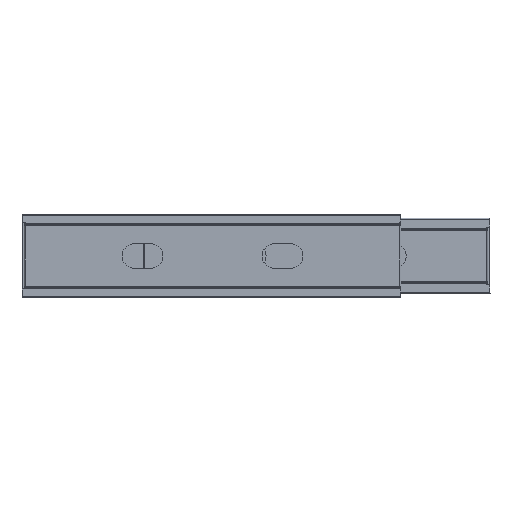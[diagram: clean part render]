
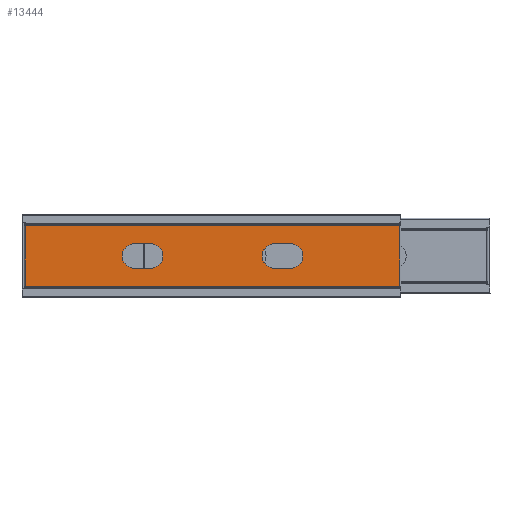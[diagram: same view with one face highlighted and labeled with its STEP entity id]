
A CAD part, top view. The second image highlights one B-rep face of the part: STEP entity #13444.
In plain terms, the highlighted planar face has unit normal (0, 0, 1).
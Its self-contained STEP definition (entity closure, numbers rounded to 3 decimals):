
#12446=CARTESIAN_POINT('Vertex',(364.85,436.8,117.195)) ;
#12611=CARTESIAN_POINT('Vertex',(513.45,436.8,117.195)) ;
#12881=CARTESIAN_POINT('Line Origine',(364.85,-23.,117.195)) ;
#12885=CARTESIAN_POINT('Vertex',(364.85,-482.8,117.195)) ;
#12917=CARTESIAN_POINT('Line Origine',(513.45,-23.,117.195)) ;
#12921=CARTESIAN_POINT('Vertex',(513.45,-482.8,117.195)) ;
#12953=CARTESIAN_POINT('Line Origine',(439.15,436.8,117.195)) ;
#13071=CARTESIAN_POINT('Vertex',(469.15,-175.,117.195)) ;
#13074=CARTESIAN_POINT('Axis2P3D Location',(439.15,-175.,117.195)) ;
#13078=CARTESIAN_POINT('Vertex',(409.15,-175.,117.195)) ;
#13111=CARTESIAN_POINT('Vertex',(469.15,-215.,117.195)) ;
#13114=CARTESIAN_POINT('Line Origine',(469.15,-195.,117.195)) ;
#13142=CARTESIAN_POINT('Vertex',(409.15,-215.,117.195)) ;
#13145=CARTESIAN_POINT('Axis2P3D Location',(439.15,-215.,117.195)) ;
#13172=CARTESIAN_POINT('Line Origine',(409.15,-195.,117.195)) ;
#13202=CARTESIAN_POINT('Vertex',(409.15,129.,117.195)) ;
#13205=CARTESIAN_POINT('Axis2P3D Location',(439.15,129.,117.195)) ;
#13209=CARTESIAN_POINT('Vertex',(469.15,129.,117.195)) ;
#13235=CARTESIAN_POINT('Vertex',(409.15,169.,117.195)) ;
#13238=CARTESIAN_POINT('Line Origine',(409.15,149.,117.195)) ;
#13266=CARTESIAN_POINT('Vertex',(469.15,169.,117.195)) ;
#13269=CARTESIAN_POINT('Axis2P3D Location',(439.15,169.,117.195)) ;
#13296=CARTESIAN_POINT('Line Origine',(469.15,149.,117.195)) ;
#13416=CARTESIAN_POINT('Axis2P3D Location',(0.,0.,117.195)) ;
#13421=CARTESIAN_POINT('Line Origine',(439.15,-482.8,117.195)) ;
#12882=DIRECTION('Vector Direction',(0.,1.,0.)) ;
#12918=DIRECTION('Vector Direction',(0.,-1.,0.)) ;
#12954=DIRECTION('Vector Direction',(1.,0.,0.)) ;
#13075=DIRECTION('Axis2P3D Direction',(0.,0.,1.)) ;
#13115=DIRECTION('Vector Direction',(0.,1.,0.)) ;
#13146=DIRECTION('Axis2P3D Direction',(0.,0.,1.)) ;
#13173=DIRECTION('Vector Direction',(0.,1.,0.)) ;
#13206=DIRECTION('Axis2P3D Direction',(0.,0.,1.)) ;
#13239=DIRECTION('Vector Direction',(0.,1.,0.)) ;
#13270=DIRECTION('Axis2P3D Direction',(0.,0.,1.)) ;
#13297=DIRECTION('Vector Direction',(0.,1.,0.)) ;
#13417=DIRECTION('Axis2P3D Direction',(0.,0.,1.)) ;
#13418=DIRECTION('Axis2P3D XDirection',(1.,0.,0.)) ;
#13422=DIRECTION('Vector Direction',(1.,0.,0.)) ;
#13076=AXIS2_PLACEMENT_3D('Circle Axis2P3D',#13074,#13075,$) ;
#13147=AXIS2_PLACEMENT_3D('Circle Axis2P3D',#13145,#13146,$) ;
#13207=AXIS2_PLACEMENT_3D('Circle Axis2P3D',#13205,#13206,$) ;
#13271=AXIS2_PLACEMENT_3D('Circle Axis2P3D',#13269,#13270,$) ;
#13419=AXIS2_PLACEMENT_3D('Plane Axis2P3D',#13416,#13417,#13418) ;
#13427=ORIENTED_EDGE('',*,*,#12887,.F.) ;
#13428=ORIENTED_EDGE('',*,*,#13425,.F.) ;
#13429=ORIENTED_EDGE('',*,*,#12923,.F.) ;
#13430=ORIENTED_EDGE('',*,*,#12957,.F.) ;
#13433=ORIENTED_EDGE('',*,*,#13080,.F.) ;
#13434=ORIENTED_EDGE('',*,*,#13118,.F.) ;
#13435=ORIENTED_EDGE('',*,*,#13149,.F.) ;
#13436=ORIENTED_EDGE('',*,*,#13176,.T.) ;
#13439=ORIENTED_EDGE('',*,*,#13211,.F.) ;
#13440=ORIENTED_EDGE('',*,*,#13242,.T.) ;
#13441=ORIENTED_EDGE('',*,*,#13273,.F.) ;
#13442=ORIENTED_EDGE('',*,*,#13300,.F.) ;
#13437=FACE_BOUND('',#13432,.T.) ;
#13443=FACE_BOUND('',#13438,.T.) ;
#12883=VECTOR('Line Direction',#12882,1.) ;
#12919=VECTOR('Line Direction',#12918,1.) ;
#12955=VECTOR('Line Direction',#12954,1.) ;
#13116=VECTOR('Line Direction',#13115,1.) ;
#13174=VECTOR('Line Direction',#13173,1.) ;
#13240=VECTOR('Line Direction',#13239,1.) ;
#13298=VECTOR('Line Direction',#13297,1.) ;
#13423=VECTOR('Line Direction',#13422,1.) ;
#13444=ADVANCED_FACE('\X2\96F64EF651E04F554F53\X0\',(#13431,#13437,#13443),#13420,.T.) ;
#13077=CIRCLE('generated circle',#13076,30.) ;
#13148=CIRCLE('generated circle',#13147,30.) ;
#13208=CIRCLE('generated circle',#13207,30.) ;
#13272=CIRCLE('generated circle',#13271,30.) ;
#12887=EDGE_CURVE('',#12886,#12447,#12884,.T.) ;
#12923=EDGE_CURVE('',#12612,#12922,#12920,.T.) ;
#12957=EDGE_CURVE('',#12447,#12612,#12956,.T.) ;
#13080=EDGE_CURVE('',#13072,#13079,#13077,.T.) ;
#13118=EDGE_CURVE('',#13112,#13072,#13117,.T.) ;
#13149=EDGE_CURVE('',#13143,#13112,#13148,.T.) ;
#13176=EDGE_CURVE('',#13143,#13079,#13175,.T.) ;
#13211=EDGE_CURVE('',#13203,#13210,#13208,.T.) ;
#13242=EDGE_CURVE('',#13203,#13236,#13241,.T.) ;
#13273=EDGE_CURVE('',#13267,#13236,#13272,.T.) ;
#13300=EDGE_CURVE('',#13210,#13267,#13299,.T.) ;
#13425=EDGE_CURVE('',#12922,#12886,#13424,.F.) ;
#13426=EDGE_LOOP('',(#13427,#13428,#13429,#13430)) ;
#13432=EDGE_LOOP('',(#13433,#13434,#13435,#13436)) ;
#13438=EDGE_LOOP('',(#13439,#13440,#13441,#13442)) ;
#13431=FACE_OUTER_BOUND('',#13426,.T.) ;
#12884=LINE('Line',#12881,#12883) ;
#12920=LINE('Line',#12917,#12919) ;
#12956=LINE('Line',#12953,#12955) ;
#13117=LINE('Line',#13114,#13116) ;
#13175=LINE('Line',#13172,#13174) ;
#13241=LINE('Line',#13238,#13240) ;
#13299=LINE('Line',#13296,#13298) ;
#13424=LINE('Line',#13421,#13423) ;
#13420=PLANE('',#13419) ;
#12447=VERTEX_POINT('',#12446) ;
#12612=VERTEX_POINT('',#12611) ;
#12886=VERTEX_POINT('',#12885) ;
#12922=VERTEX_POINT('',#12921) ;
#13072=VERTEX_POINT('',#13071) ;
#13079=VERTEX_POINT('',#13078) ;
#13112=VERTEX_POINT('',#13111) ;
#13143=VERTEX_POINT('',#13142) ;
#13203=VERTEX_POINT('',#13202) ;
#13210=VERTEX_POINT('',#13209) ;
#13236=VERTEX_POINT('',#13235) ;
#13267=VERTEX_POINT('',#13266) ;
